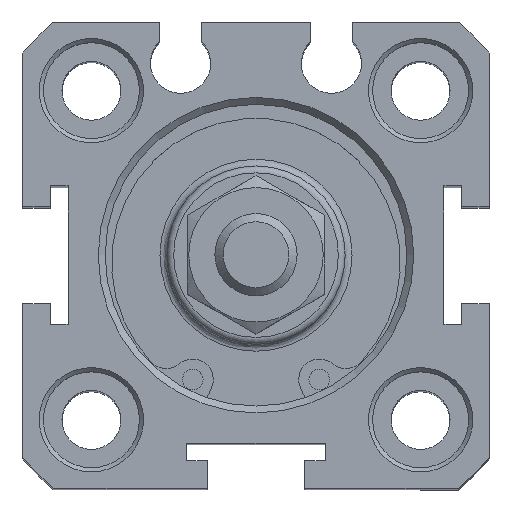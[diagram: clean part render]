
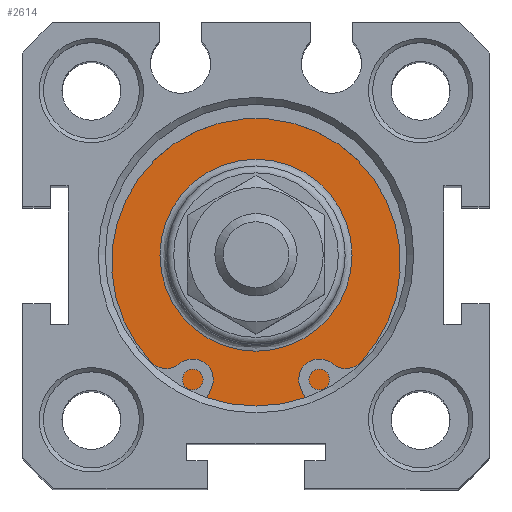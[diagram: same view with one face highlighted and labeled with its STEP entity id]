
A CAD part, top view. The second image highlights one B-rep face of the part: STEP entity #2614.
In plain terms, the highlighted planar face has unit normal (0, 0, 1).
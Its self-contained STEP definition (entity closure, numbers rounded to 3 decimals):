
#2552=CARTESIAN_POINT('',(0.957,6.522,66.8));
#2553=VERTEX_POINT('',#2552);
#2554=CARTESIAN_POINT('',(0.957,-0.478,66.8));
#2555=DIRECTION('',(0.0,0.0,1.0));
#2556=DIRECTION('',(0.0,-1.0,0.0));
#2557=AXIS2_PLACEMENT_3D('',#2554,#2555,#2556);
#2558=CIRCLE('',#2557,7.);
#2559=EDGE_CURVE('',#2553,#2553,#2558,.T.);
#2595=CARTESIAN_POINT('',(0.957,8.272,66.8));
#2596=DIRECTION('',(0.0,0.0,1.0));
#2597=DIRECTION('',(1.0,0.0,0.0));
#2598=AXIS2_PLACEMENT_3D('',#2595,#2596,#2597);
#2599=PLANE('',#2598);
#2600=CARTESIAN_POINT('',(0.957,10.522,66.8));
#2601=VERTEX_POINT('',#2600);
#2602=CARTESIAN_POINT('',(0.957,-0.478,66.8));
#2603=DIRECTION('',(0.0,0.0,1.0));
#2604=DIRECTION('',(0.0,1.0,0.0));
#2605=AXIS2_PLACEMENT_3D('',#2602,#2603,#2604);
#2606=CIRCLE('',#2605,11.);
#2607=EDGE_CURVE('',#2601,#2601,#2606,.T.);
#2608=ORIENTED_EDGE('',*,*,#2607,.T.);
#2609=EDGE_LOOP('',(#2608));
#2610=FACE_OUTER_BOUND('',#2609,.T.);
#2611=ORIENTED_EDGE('',*,*,#2559,.F.);
#2612=EDGE_LOOP('',(#2611));
#2613=FACE_BOUND('',#2612,.T.);
#2614=ADVANCED_FACE('',(#2610,#2613),#2599,.T.);
